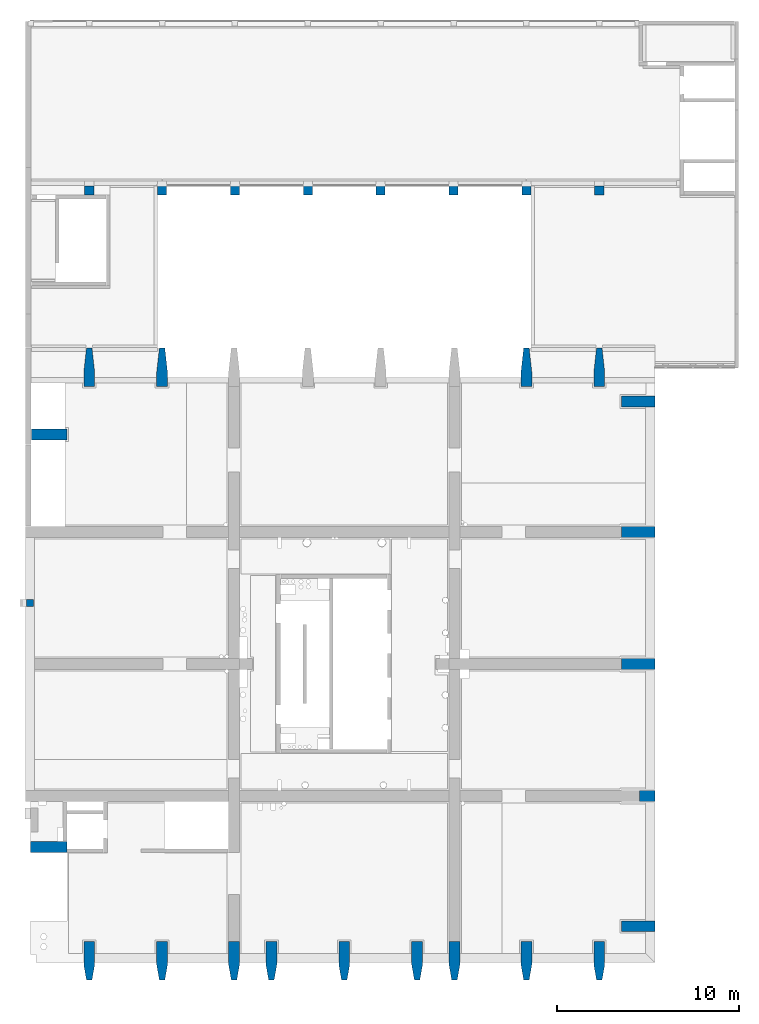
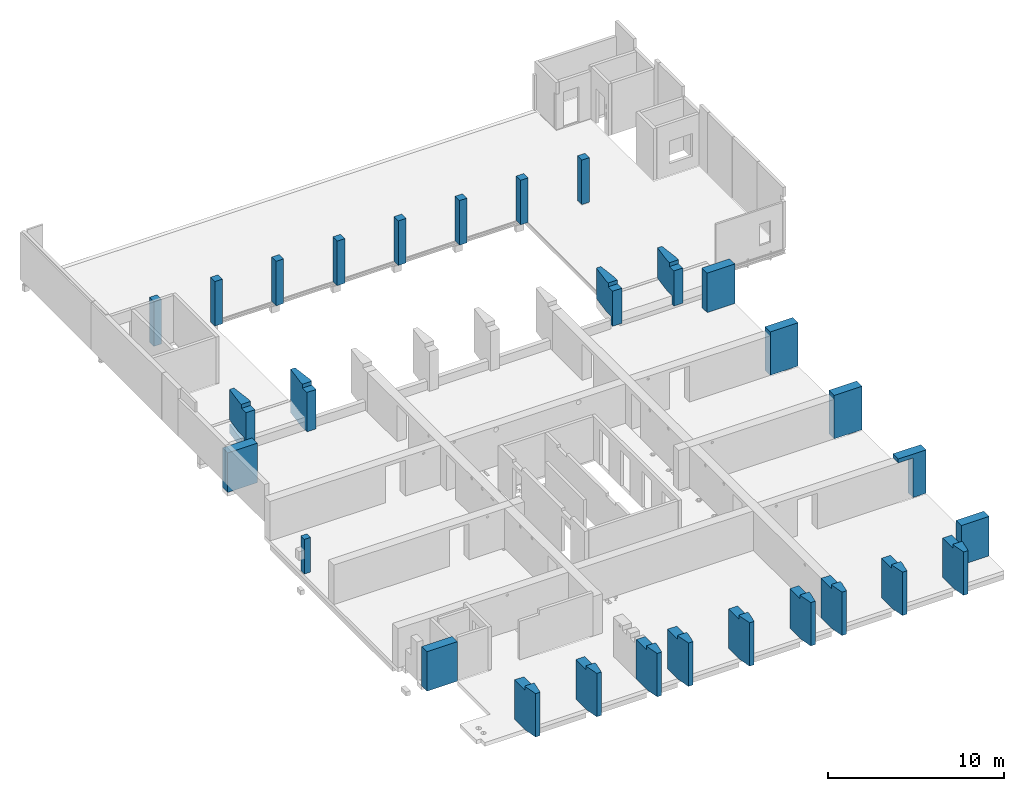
# One storey, part 1 of 10: 29 columns.
"""IFC2X3 building model written with IfcOpenShell, lengths in millimetres."""

import ifcopenshell
import ifcopenshell.guid

model = None  # the IFC model being written
_history = None  # IfcOwnerHistory: only IFC2X3 demands one
_inside = {}  # id of a spatial element -> (the spatial element, [elements in it])
_under = {}  # id of a project, library or spatial element -> (it, [spatial elements below it])
_declared = {}  # id of a project -> (the project, [libraries it declares])
_typed = {}  # id of a type object -> (the type object, [elements of that type])
_made_of = {}  # id of a material, layer set ... -> (it, [elements and type objects made of it])


def new_model(schema):
    """Start an empty IFC model of exactly this schema.

    Asked for "IFC4X3", IfcOpenShell would pick the latest addendum, in which some entities
    have other attributes; the version numbers below select the first issue.
    IFC2X3 requires an IfcOwnerHistory on every rooted entity: one is made here for all.
    """
    global model, _history
    if schema == "IFC4X3":
        model = ifcopenshell.file(schema_version=(4, 3, 0, 0))
    else:
        model = ifcopenshell.file(schema=schema)
    _inside.clear()
    _under.clear()
    _declared.clear()
    _typed.clear()
    _made_of.clear()
    _history = None
    if model.schema == "IFC2X3":
        org = make("IfcOrganization", Name="unknown")
        user = make(
            "IfcPersonAndOrganization",
            ThePerson=make("IfcPerson", FamilyName="unknown"),
            TheOrganization=org,
        )
        app = make(
            "IfcApplication",
            ApplicationDeveloper=org,
            Version="unknown",
            ApplicationFullName="unknown",
            ApplicationIdentifier="unknown",
        )
        _history = make(
            "IfcOwnerHistory",
            OwningUser=user,
            OwningApplication=app,
            ChangeAction="ADDED",
            CreationDate=0,
        )
    return model


def make(cls, **values):
    """One entity of the class cls with the attributes given. An attribute that is None is left unset."""
    return model.create_entity(
        cls, **{name: value for name, value in values.items() if value is not None}
    )


def entity(cls, *values):
    """Any entity or typed value of the class cls, its attributes in the order of the schema. None: left unset."""
    e = model.create_entity(cls)
    for i, value in enumerate(values):
        if value is not None:
            e[i] = value
    return e


def rooted(cls, **values):
    """An entity with a GlobalId (a new one), such as an element, a storey or a relation."""
    return make(cls, GlobalId=ifcopenshell.guid.new(), OwnerHistory=_history, **values)


def si_unit(unit_type, name, prefix=None):
    """IfcSIUnit, for example si_unit("LENGTHUNIT", "METRE", prefix="MILLI")."""
    return make("IfcSIUnit", UnitType=unit_type, Prefix=prefix, Name=name)


def converted_unit(unit_type, name, factor, base, dimensions=None, offset=None):
    """IfcConversionBasedUnit, such as the inch: factor (a typed value) times the base unit."""
    return make(
        "IfcConversionBasedUnit"
        if offset is None
        else "IfcConversionBasedUnitWithOffset",
        ConversionOffset=offset,
        Dimensions=None
        if dimensions is None
        else entity("IfcDimensionalExponents", *dimensions),
        UnitType=unit_type,
        Name=name,
        ConversionFactor=make(
            "IfcMeasureWithUnit", ValueComponent=factor, UnitComponent=base
        ),
    )


def derived_unit(unit_type, elements):
    """IfcDerivedUnit: a product of units, each with its exponent."""
    return make(
        "IfcDerivedUnit",
        Elements=[
            make("IfcDerivedUnitElement", Unit=unit, Exponent=power)
            for unit, power in elements
        ],
        UnitType=unit_type,
    )


def assignment(units):
    """IfcUnitAssignment: the units of a project."""
    return None if units is None else make("IfcUnitAssignment", Units=units)


def point(xyz):
    """IfcCartesianPoint."""
    return None if xyz is None else make("IfcCartesianPoint", Coordinates=xyz)


def direction(xyz):
    """IfcDirection."""
    return None if xyz is None else make("IfcDirection", DirectionRatios=xyz)


def frame(location, z_axis=None, x_axis=None):
    """IfcAxis2Placement3D, a coordinate frame: its origin and axes. An axis left out is left unset."""
    return make(
        "IfcAxis2Placement3D",
        Location=point(location),
        Axis=direction(z_axis),
        RefDirection=direction(x_axis),
    )


def frame_2d(location, x_axis=None):
    """IfcAxis2Placement2D, a coordinate frame in the plane: its origin and x axis."""
    return make(
        "IfcAxis2Placement2D", Location=point(location), RefDirection=direction(x_axis)
    )


def origin():
    """The frame at (0, 0, 0) with its axes left unset."""
    return frame((0.0, 0.0, 0.0))


def origin_2d_with_axis():
    """The frame at (0, 0) in the plane with the x axis (1, 0) written out."""
    return frame_2d((0.0, 0.0), x_axis=(1.0, 0.0))


def place(relative_to, where):
    """IfcLocalPlacement: puts the frame where relative to a parent placement (None: the world)."""
    return make(
        "IfcLocalPlacement", PlacementRelTo=relative_to, RelativePlacement=where
    )


def context(
    kind, dimensions, precision=None, world=None, true_north=None, identifier=None
):
    """IfcGeometricRepresentationContext, for example the 3D "Model" context."""
    return make(
        "IfcGeometricRepresentationContext",
        ContextIdentifier=identifier,
        ContextType=kind,
        CoordinateSpaceDimension=dimensions,
        Precision=precision,
        WorldCoordinateSystem=world,
        TrueNorth=true_north,
    )


def subcontext(parent, identifier, kind, view, scale=None):
    """IfcGeometricRepresentationSubContext, for example "Body" below "Model"."""
    return make(
        "IfcGeometricRepresentationSubContext",
        ContextIdentifier=identifier,
        ContextType=kind,
        ParentContext=parent,
        TargetScale=scale,
        TargetView=view,
    )


def project(units=None, contexts=None):
    """IfcProject with its units and contexts."""
    return rooted(
        "IfcProject",
        Name="project",
        RepresentationContexts=contexts,
        UnitsInContext=assignment(units),
    )


def spatial(cls, under=None, at=None, **own):
    """A site, building, storey or space (cls), placed at a placement, below another one or the project."""
    s = rooted(cls, ObjectPlacement=at, **own)
    if under is not None:
        _under.setdefault(under.id(), (under, []))[1].append(s)
    return s


def polyline(points):
    """IfcPolyline through the points."""
    return make("IfcPolyline", Points=[point(p) for p in points])


def profile(cls, at=None, kind="AREA", **sizes):
    """A parametric profile (cls). Its sizes go by their IFC names, for example OverallWidth=200.0."""
    return make(cls, ProfileType=kind, Position=at, **sizes)


def rectangle(**sizes):
    """IfcRectangleProfileDef."""
    return profile("IfcRectangleProfileDef", **sizes)


def outline(outer, holes=None, kind="AREA"):
    """IfcArbitraryClosedProfileDef: a profile drawn as a closed curve; with holes, ...WithVoids."""
    if holes is None:
        return make("IfcArbitraryClosedProfileDef", ProfileType=kind, OuterCurve=outer)
    return make(
        "IfcArbitraryProfileDefWithVoids",
        ProfileType=kind,
        OuterCurve=outer,
        InnerCurves=holes,
    )


def extrude(swept, where, along, depth):
    """IfcExtrudedAreaSolid: the profile swept, set in the frame where, extruded along a direction by depth."""
    return make(
        "IfcExtrudedAreaSolid",
        SweptArea=swept,
        Position=where,
        ExtrudedDirection=direction(along),
        Depth=depth,
    )


def faces_of(points, faces, orient=None, outer=None):
    """IfcFace entities. A face is a list of loops; a loop is a list of indices into points, from 0.

    orient and outer hold one flag for each loop. By default every Orientation is true, the
    first loop of a face is its IfcFaceOuterBound and the others are IfcFaceBound.
    """
    made = []
    for i, loops in enumerate(faces):
        bounds = []
        for j, loop in enumerate(loops):
            is_outer = j == 0 if outer is None else outer[i][j]
            bounds.append(
                make(
                    "IfcFaceOuterBound" if is_outer else "IfcFaceBound",
                    Bound=make("IfcPolyLoop", Polygon=[points[k] for k in loop]),
                    Orientation=True if orient is None else orient[i][j],
                )
            )
        made.append(make("IfcFace", Bounds=bounds))
    return made


def faceted_brep(points, faces, orient=None, outer=None, voids=None):
    """IfcFacetedBrep: a solid bounded by flat faces; with voids (closed shells), ...WithVoids."""
    shared = [point(p) for p in points]
    hull = make("IfcClosedShell", CfsFaces=faces_of(shared, faces, orient, outer))
    if voids is None:
        return make("IfcFacetedBrep", Outer=hull)
    return make(
        "IfcFacetedBrepWithVoids",
        Outer=hull,
        Voids=[
            make(cls, CfsFaces=faces_of(shared, fs, o, b)) for cls, fs, o, b in voids
        ],
    )


def shape(context_of_items, identifier, shape_type, items):
    """IfcShapeRepresentation: the items that make up one representation, for example the "Body"."""
    return make(
        "IfcShapeRepresentation",
        ContextOfItems=context_of_items,
        RepresentationIdentifier=identifier,
        RepresentationType=shape_type,
        Items=items,
    )


def source(mapping_origin, context_of_items, identifier, shape_type, items):
    """IfcRepresentationMap: a shape defined once, which mapped items show again and again."""
    return make(
        "IfcRepresentationMap",
        MappingOrigin=mapping_origin,
        MappedRepresentation=shape(context_of_items, identifier, shape_type, items),
    )


def transform(
    local_origin,
    x_axis=None,
    y_axis=None,
    z_axis=None,
    scale=None,
    scale2=None,
    scale3=None,
    uniform=True,
):
    """IfcCartesianTransformationOperator3D, or its non-uniform kind. x_axis, y_axis, z_axis: its Axis1, 2, 3."""
    if uniform:
        return make(
            "IfcCartesianTransformationOperator3D",
            Axis1=direction(x_axis),
            Axis2=direction(y_axis),
            LocalOrigin=point(local_origin),
            Scale=scale,
            Axis3=direction(z_axis),
        )
    return make(
        "IfcCartesianTransformationOperator3DnonUniform",
        Axis1=direction(x_axis),
        Axis2=direction(y_axis),
        LocalOrigin=point(local_origin),
        Scale=scale,
        Axis3=direction(z_axis),
        Scale2=scale2,
        Scale3=scale3,
    )


def mapped(mapping_source, mapping_target):
    """IfcMappedItem: shows the shape of a source again, moved by a transform."""
    return make(
        "IfcMappedItem", MappingSource=mapping_source, MappingTarget=mapping_target
    )


def material(Name=None, Category=None):
    """IfcMaterial."""
    return make("IfcMaterial", Name=Name, Category=Category)


def made_of(thing, what):
    """Note that an element or type object is made of a material, layer set ...; save() writes the relation."""
    if what is not None:
        _made_of.setdefault(what.id(), (what, []))[1].append(thing)
    return thing


def type_object(cls, material=None, **own):
    """A type object (cls), such as IfcWallType, which elements share."""
    return made_of(rooted(cls, **own), material)


def type_shapes(of_type, sources):
    """Give a type object the sources (RepresentationMaps) that its elements show as mapped items."""
    of_type.RepresentationMaps = sources


def element(
    cls,
    number,
    at=None,
    inside=None,
    cuts=None,
    type_object=None,
    material=None,
    context=None,
    identifier="Body",
    shape_type=None,
    held_by="IfcProductDefinitionShape",
    body=None,
    shapes=None,
    **own,
):
    """One element of the class cls, such as IfcWall. Its Tag is "e" and its number.

    at: its placement. inside: the storey or other place that contains it. cuts: it is an
    opening in that element (IfcRelVoidsElement). A single representation is given by context,
    identifier, shape_type and body (its items); several are given by shapes. held_by: the class
    of the entity that holds the representations. save() writes the other relations.
    """
    e = rooted(cls, Tag="e%d" % number, ObjectPlacement=at, **own)
    if body is not None:
        shapes = [shape(context, identifier, shape_type, body)]
    if shapes is not None:
        e.Representation = make(held_by, Representations=shapes)
    if inside is not None:
        _inside.setdefault(inside.id(), (inside, []))[1].append(e)
    if cuts is not None:
        rooted(
            "IfcRelVoidsElement", RelatingBuildingElement=cuts, RelatedOpeningElement=e
        )
    if type_object is not None:
        _typed.setdefault(type_object.id(), (type_object, []))[1].append(e)
    return made_of(e, material)


def aggregate(whole, parts):
    """IfcRelAggregates: a whole, such as a stair, and the parts it consists of."""
    return rooted("IfcRelAggregates", RelatingObject=whole, RelatedObjects=parts)


def save(model, path):
    """Write the relations noted so far, then the file.

    IfcRelAggregates (storeys below a building ...), IfcRelContainedInSpatialStructure (elements
    in a storey), IfcRelDefinesByType, IfcRelAssociatesMaterial and IfcRelDeclares: one each for
    every whole, place, type object, material and project.
    """
    for whole, parts in _under.values():
        aggregate(whole, parts)
    for where, things in _inside.values():
        rooted(
            "IfcRelContainedInSpatialStructure",
            RelatedElements=things,
            RelatingStructure=where,
        )
    for kind, things in _typed.values():
        rooted("IfcRelDefinesByType", RelatedObjects=things, RelatingType=kind)
    for what, things in _made_of.values():
        rooted("IfcRelAssociatesMaterial", RelatedObjects=things, RelatingMaterial=what)
    for by, libraries in _declared.values():
        rooted("IfcRelDeclares", RelatingContext=by, RelatedDefinitions=libraries)
    model.write(path)


model = new_model("IFC2X3")

# Units and contexts
model_context = context("Model", 3, precision=0.01, world=origin(), true_north=direction((6.12303176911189e-17, 1.0)))
body_context = subcontext(model_context, "Body", "Model", "MODEL_VIEW")
ifc_project = project(units=[si_unit("LENGTHUNIT", "METRE", prefix="MILLI"), si_unit("AREAUNIT", "SQUARE_METRE"), si_unit("VOLUMEUNIT", "CUBIC_METRE"), converted_unit("PLANEANGLEUNIT", "DEGREE", entity("IfcRatioMeasure", 0.0174532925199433), si_unit("PLANEANGLEUNIT", "RADIAN"), dimensions=[0, 0, 0, 0, 0, 0, 0]), si_unit("MASSUNIT", "GRAM", prefix="KILO"), derived_unit("MASSDENSITYUNIT", [(si_unit("MASSUNIT", "GRAM", prefix="KILO"), 1), (si_unit("LENGTHUNIT", "METRE"), -3)]), si_unit("TIMEUNIT", "SECOND"), si_unit("FREQUENCYUNIT", "HERTZ"), si_unit("THERMODYNAMICTEMPERATUREUNIT", "DEGREE_CELSIUS"), derived_unit("THERMALTRANSMITTANCEUNIT", [(si_unit("MASSUNIT", "GRAM", prefix="KILO"), 1), (si_unit("THERMODYNAMICTEMPERATUREUNIT", "KELVIN"), -1), (si_unit("TIMEUNIT", "SECOND"), -3)]), derived_unit("VOLUMETRICFLOWRATEUNIT", [(si_unit("LENGTHUNIT", "METRE"), 3), (si_unit("TIMEUNIT", "SECOND"), -1)]), si_unit("ELECTRICCURRENTUNIT", "AMPERE"), si_unit("ELECTRICVOLTAGEUNIT", "VOLT"), si_unit("POWERUNIT", "WATT"), si_unit("FORCEUNIT", "NEWTON", prefix="KILO"), si_unit("ILLUMINANCEUNIT", "LUX"), si_unit("LUMINOUSFLUXUNIT", "LUMEN"), si_unit("LUMINOUSINTENSITYUNIT", "CANDELA"), derived_unit("USERDEFINED", [(si_unit("MASSUNIT", "GRAM", prefix="KILO"), -1), (si_unit("LENGTHUNIT", "METRE"), -2), (si_unit("TIMEUNIT", "SECOND"), 3), (si_unit("LUMINOUSFLUXUNIT", "LUMEN"), 1)]), derived_unit("LINEARVELOCITYUNIT", [(si_unit("LENGTHUNIT", "METRE"), 1), (si_unit("TIMEUNIT", "SECOND"), -1)]), si_unit("PRESSUREUNIT", "PASCAL"), derived_unit("USERDEFINED", [(si_unit("LENGTHUNIT", "METRE"), -2), (si_unit("MASSUNIT", "GRAM", prefix="KILO"), 1), (si_unit("TIMEUNIT", "SECOND"), -2)])], contexts=[model_context])

# Site, building, storey
site_placement = place(None, origin())
site = spatial("IfcSite", under=ifc_project, at=site_placement, Name="Default", CompositionType="ELEMENT")
building_placement = place(site_placement, origin())
building = spatial("IfcBuilding", under=site, at=building_placement, Name="niet gebruiken", CompositionType="ELEMENT")
storey_placement = place(building_placement, frame((0.0, 0.0, 9000.0)))
storey = spatial("IfcBuildingStorey", under=building, at=storey_placement, Name="02 tweede verdieping", CompositionType="ELEMENT", Elevation=9000.00000000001)

# Columns
ifc_material_1 = material(Name="NLRS_f2_beton ihwg")
column_type_1 = type_object("IfcColumnType", Name="600x1820", PredefinedType="COLUMN", material=ifc_material_1)
shared_shape_1 = source(origin(), body_context, "Body", "SweptSolid", [
    extrude(rectangle(XDim=600.0, YDim=1820.0, at=origin_2d_with_axis()), frame((157890.0, 3100.0, 8910.0), z_axis=(0.0, 0.0, 1.0), x_axis=(0.0, -1.0, 0.0)), (0.0, 0.0, 1.0), 2730.0),
])
type_shapes(column_type_1, [shared_shape_1])
column_1_placement = place(storey_placement, frame((0.0, 0.0, -9000.0)))
element("IfcColumn", 1, at=column_1_placement, inside=storey, type_object=column_type_1, material=ifc_material_1, Name="NLRS_28.11_SCO_TLB_beton kolom ihwg_gen:600x1820", ObjectType="600x1820", context=body_context, shape_type="MappedRepresentation", body=[
    mapped(shared_shape_1, transform((0.0, 0.0, 0.0), scale=1.0)),
])
column_type_2 = type_object("IfcColumnType", Name="600x1820", PredefinedType="COLUMN", material=ifc_material_1)
shared_shape_2 = source(origin(), body_context, "Body", "Brep", [
    faceted_brep([(0.0, 0.0, 3000.0), (0.0, 600.0, 3000.0), (0.0, 600.0, 2730.0), (0.0, 0.0, 2730.0), (1820.0, 600.0, 3000.0), (1820.0, 0.0, 3000.0), (1820.0, 0.0, 2730.0), (1820.0, 0.0, 2400.0), (1820.0, 0.0, 0.0), (1820.0, 600.0, 0.0), (1820.0, 600.0, 2400.0), (1820.0, 600.0, 2730.0), (971.286961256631, 0.0, 0.0), (971.286961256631, 600.0, 0.0), (971.286961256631, 600.0, 2730.0), (971.286961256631, 0.0, 2730.0)], [[[0, 1, 2, 3]], [[4, 5, 6, 7, 8, 9, 10, 11]], [[0, 5, 4, 1]], [[9, 8, 12, 13]], [[1, 4, 11, 10, 9, 13, 14, 2]], [[5, 0, 3, 15, 12, 8, 7, 6]], [[15, 14, 13, 12]], [[14, 15, 3, 2]]]),
])
type_shapes(column_type_2, [shared_shape_2])
column_2_placement = place(storey_placement, frame((156980.0, 9950.0, -90.0)))
element("IfcColumn", 2, at=column_2_placement, inside=storey, type_object=column_type_2, material=ifc_material_1, Name="NLRS_28.11_SCO_TLB_beton kolom ihwg_gen:600x1820", ObjectType="600x1820", context=body_context, shape_type="MappedRepresentation", body=[
    mapped(shared_shape_2, transform((0.0, 0.0, 0.0), scale=1.0)),
])
column_type_3 = type_object("IfcColumnType", Name="600x1820", PredefinedType="COLUMN", material=ifc_material_1)
shared_shape_3 = source(origin(), body_context, "Body", "SweptSolid", [
    extrude(rectangle(XDim=600.0, YDim=1820.0, at=frame_2d((1.10844666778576e-12, 0.0), x_axis=(1.0, 0.0))), frame((157890.0, 17500.0, 8910.0), z_axis=(0.0, 0.0, 1.0), x_axis=(0.0, -1.0, 0.0)), (0.0, 0.0, 1.0), 3000.0),
])
type_shapes(column_type_3, [shared_shape_3])
column_3_placement = place(storey_placement, frame((0.0, 0.0, -9000.0)))
element("IfcColumn", 3, at=column_3_placement, inside=storey, type_object=column_type_3, material=ifc_material_1, Name="NLRS_28.11_SCO_TLB_beton kolom ihwg_gen:600x1820", ObjectType="600x1820", context=body_context, shape_type="MappedRepresentation", body=[
    mapped(shared_shape_3, transform((0.0, 0.0, 0.0), scale=1.0)),
])
column_type_4 = type_object("IfcColumnType", Name="600x1820", PredefinedType="COLUMN", material=ifc_material_1)
shared_shape_4 = source(origin(), body_context, "Body", "SweptSolid", [
    extrude(rectangle(XDim=599.999999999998, YDim=1820.0, at=origin_2d_with_axis()), frame((157890.0, 24750.0, 8910.0), z_axis=(0.0, 0.0, 1.0), x_axis=(0.0, -1.0, 0.0)), (0.0, 0.0, 1.0), 3000.0),
])
type_shapes(column_type_4, [shared_shape_4])
column_4_placement = place(storey_placement, frame((0.0, 0.0, -9000.0)))
element("IfcColumn", 4, at=column_4_placement, inside=storey, type_object=column_type_4, material=ifc_material_1, Name="NLRS_28.11_SCO_TLB_beton kolom ihwg_gen:600x1820", ObjectType="600x1820", context=body_context, shape_type="MappedRepresentation", body=[
    mapped(shared_shape_4, transform((0.0, 0.0, 0.0), scale=1.0)),
])
column_type_5 = type_object("IfcColumnType", Name="600x1820", PredefinedType="COLUMN", material=ifc_material_1)
shared_shape_5 = source(origin(), body_context, "Body", "SweptSolid", [
    extrude(rectangle(XDim=599.999999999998, YDim=1820.0, at=frame_2d((-4.34852154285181e-12, 0.0), x_axis=(1.0, 0.0))), frame((157890.0, 31900.0, 8910.0), z_axis=(0.0, 0.0, 1.0), x_axis=(0.0, -1.0, 0.0)), (0.0, 0.0, 1.0), 2730.0),
])
type_shapes(column_type_5, [shared_shape_5])
column_5_placement = place(storey_placement, frame((0.0, 0.0, -9000.0)))
element("IfcColumn", 5, at=column_5_placement, inside=storey, type_object=column_type_5, material=ifc_material_1, Name="NLRS_28.11_SCO_TLB_beton kolom ihwg_gen:600x1820", ObjectType="600x1820", context=body_context, shape_type="MappedRepresentation", body=[
    mapped(shared_shape_5, transform((0.0, 0.0, 0.0), scale=1.0)),
])
column_type_6 = type_object("IfcColumnType", Name="600/300x2120/770", PredefinedType="COLUMN", material=ifc_material_1)
shared_shape_6 = source(origin(), body_context, "Body", "Brep", [
    faceted_brep([(600.0, 770.0, 2700.0), (450.0, 2120.0, 2700.0), (150.0, 2120.0, 2700.0), (0.0, 770.0, 2700.0), (0.0, 500.0, 2700.0), (600.0, 500.0, 2700.0), (600.0, 0.0, 0.0), (0.0, 0.0, 0.0), (0.0, 200.0, 0.0), (600.0, 200.0, 0.0), (600.0, 200.0, 600.0), (600.0, 770.0, 600.0), (600.0, 500.0, 2430.0), (600.0, 0.0, 2430.0), (450.0, 2120.0, 600.0), (150.0, 2120.0, 600.0), (0.0, 0.0, 2430.0), (0.0, 500.0, 2430.0), (0.0, 770.0, 600.0), (0.0, 200.0, 600.0)], [[[0, 1, 2, 3, 4, 5]], [[6, 7, 8, 9]], [[6, 9, 10, 11, 0, 5, 12, 13]], [[2, 1, 14, 15]], [[8, 7, 16, 17, 4, 3, 18, 19]], [[7, 6, 13, 16]], [[1, 0, 11, 14]], [[3, 2, 15, 18]], [[10, 19, 18, 15, 14, 11]], [[19, 10, 9, 8]], [[12, 17, 16, 13]], [[17, 12, 5, 4]]]),
])
type_shapes(column_type_6, [shared_shape_6])
column_6_placement = place(storey_placement, frame((155450.0, 32730.0, 210.0)))
element("IfcColumn", 6, at=column_6_placement, inside=storey, type_object=column_type_6, material=ifc_material_1, Name="NLRS_28.11_SCO_TLB_beton kolom ihwg V vorm_gen:600/300x2120/770", ObjectType="600/300x2120/770", context=body_context, shape_type="MappedRepresentation", body=[
    mapped(shared_shape_6, transform((0.0, 0.0, 0.0), scale=1.0)),
])
column_type_7 = type_object("IfcColumnType", Name="600/300x2120/770", PredefinedType="COLUMN", material=ifc_material_1)
shared_shape_7 = source(origin(), body_context, "Body", "Brep", [
    faceted_brep([(600.0, 770.0, 2700.0), (450.0, 2120.0, 2700.0), (150.0, 2120.0, 2700.0), (0.0, 770.0, 2700.0), (0.0, 500.0, 2700.0), (600.0, 500.0, 2700.0), (600.0, 0.0, 0.0), (0.0, 0.0, 0.0), (0.0, 200.0, 0.0), (600.0, 200.0, 0.0), (600.0, 200.0, 600.0), (600.0, 770.0, 600.0), (600.0, 500.0, 2430.0), (600.0, 0.0, 2430.0), (450.0, 2120.0, 600.0), (150.0, 2120.0, 600.0), (0.0, 0.0, 2430.0), (0.0, 500.0, 2430.0), (0.0, 770.0, 600.0), (0.0, 200.0, 600.0)], [[[0, 1, 2, 3, 4, 5]], [[6, 7, 8, 9]], [[6, 9, 10, 11, 0, 5, 12, 13]], [[2, 1, 14, 15]], [[8, 7, 16, 17, 4, 3, 18, 19]], [[7, 6, 13, 16]], [[1, 0, 11, 14]], [[3, 2, 15, 18]], [[10, 19, 18, 15, 14, 11]], [[19, 10, 9, 8]], [[12, 17, 16, 13]], [[17, 12, 5, 4]]]),
])
type_shapes(column_type_7, [shared_shape_7])
column_7_placement = place(storey_placement, frame((151450.0, 32730.0, 210.0)))
element("IfcColumn", 7, at=column_7_placement, inside=storey, type_object=column_type_7, material=ifc_material_1, Name="NLRS_28.11_SCO_TLB_beton kolom ihwg V vorm_gen:600/300x2120/770", ObjectType="600/300x2120/770", context=body_context, shape_type="MappedRepresentation", body=[
    mapped(shared_shape_7, transform((0.0, 0.0, 0.0), scale=1.0)),
])
column_type_8 = type_object("IfcColumnType", Name="600/300x2120/770", PredefinedType="COLUMN", material=ifc_material_1)
shared_shape_8 = source(origin(), body_context, "Body", "Brep", [
    faceted_brep([(600.0, 770.0, 3000.0), (450.0, 2120.0, 3000.0), (150.0, 2120.0, 3000.0), (0.0, 770.0, 3000.0), (0.0, 500.0, 3000.0), (600.0, 500.0, 3000.0), (600.0, 0.0, 0.0), (0.0, 0.0, 0.0), (0.0, 200.0, 0.0), (0.0, 500.0, 0.0), (0.0, 770.0, 0.0), (150.0, 2120.0, 0.0), (450.0, 2120.0, 0.0), (600.0, 770.0, 0.0), (600.0, 500.0, 2730.0), (600.0, 0.0, 2730.0), (150.0, 2120.0, 600.0), (150.0, 2120.0, 900.0), (0.0, 0.0, 2730.0), (0.0, 500.0, 2730.0), (0.0, 770.0, 900.0), (0.0, 770.0, 600.0)], [[[0, 1, 2, 3, 4, 5]], [[6, 7, 8, 9, 10, 11, 12, 13]], [[6, 13, 0, 5, 14, 15]], [[2, 1, 12, 11, 16, 17]], [[10, 9, 8, 7, 18, 19, 4, 3, 20, 21]], [[7, 6, 15, 18]], [[1, 0, 13, 12]], [[3, 2, 17, 16, 11, 10, 21, 20]], [[14, 19, 18, 15]], [[19, 14, 5, 4]]]),
])
type_shapes(column_type_8, [shared_shape_8])
column_8_placement = place(storey_placement, frame((131450.0, 32730.0, -90.0)))
element("IfcColumn", 8, at=column_8_placement, inside=storey, type_object=column_type_8, material=ifc_material_1, Name="NLRS_28.11_SCO_TLB_beton kolom ihwg V vorm_gen:600/300x2120/770", ObjectType="600/300x2120/770", context=body_context, shape_type="MappedRepresentation", body=[
    mapped(shared_shape_8, transform((0.0, 0.0, 0.0), scale=1.0)),
])
column_type_9 = type_object("IfcColumnType", Name="600/300x2120/770", PredefinedType="COLUMN", material=ifc_material_1)
shared_shape_9 = source(origin(), body_context, "Body", "SolidModel", [
    extrude(outline(polyline([(360.0, -300.0), (630.0, -300.0), (630.0, 300.0), (360.0, 300.0), (-990.0, 150.0), (-990.0, -150.0), (360.0, -300.0)])), frame((127750.0, 33860.0, 8910.0), z_axis=(0.0, 0.0, 1.0), x_axis=(0.0, -1.0, 0.0)), (0.0, 0.0, 1.0), 600.000000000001),
    faceted_brep([(128050.0, 33500.0, 11910.0), (127900.0, 34850.0, 11910.0), (127600.0, 34850.0, 11910.0), (127450.0, 33500.0, 11910.0), (127450.0, 33230.0, 11910.0), (128050.0, 33230.0, 11910.0), (128050.0, 32730.0, 8910.0), (128050.0, 32930.0, 8910.0), (128050.0, 32930.0, 9810.0), (128050.0, 33500.0, 9810.0), (128050.0, 33230.0, 11640.0), (128050.0, 32730.0, 11640.0), (127900.0, 34850.0, 9810.0), (127600.0, 34850.0, 9810.0), (127450.0, 32930.0, 8910.0), (127450.0, 32730.0, 8910.0), (127450.0, 32730.0, 11640.0), (127450.0, 33230.0, 11640.0), (127450.0, 33500.0, 9810.0), (127450.0, 32930.0, 9810.0)], [[[0, 1, 2, 3, 4, 5]], [[6, 7, 8, 9, 0, 5, 10, 11]], [[2, 1, 12, 13]], [[14, 15, 16, 17, 4, 3, 18, 19]], [[15, 6, 11, 16]], [[1, 0, 9, 12]], [[3, 2, 13, 18]], [[7, 14, 19, 8]], [[6, 15, 14, 7]], [[8, 19, 18, 13, 12, 9]], [[10, 17, 16, 11]], [[17, 10, 5, 4]]]),
])
type_shapes(column_type_9, [shared_shape_9])
column_9_placement = place(storey_placement, frame((0.0, 0.0, -9000.0)))
element("IfcColumn", 9, at=column_9_placement, inside=storey, type_object=column_type_9, material=ifc_material_1, Name="NLRS_28.11_SCO_TLB_beton kolom ihwg V vorm_gen:600/300x2120/770", ObjectType="600/300x2120/770", context=body_context, shape_type="MappedRepresentation", body=[
    mapped(shared_shape_9, transform((0.0, 0.0, 0.0), scale=1.0)),
])
column_type_10 = type_object("IfcColumnType", Name="600x1990", PredefinedType="COLUMN", material=ifc_material_1)
shared_shape_10 = source(origin(), body_context, "Body", "SweptSolid", [
    extrude(rectangle(XDim=600.0, YDim=1990.0, at=origin_2d_with_axis()), frame((125525.0, 7450.0, 8910.0), z_axis=(0.0, 0.0, 1.0), x_axis=(0.0, -1.0, 0.0)), (0.0, 0.0, 1.0), 2730.0),
])
type_shapes(column_type_10, [shared_shape_10])
column_10_placement = place(storey_placement, frame((0.0, 0.0, -9000.0)))
element("IfcColumn", 10, at=column_10_placement, inside=storey, type_object=column_type_10, material=ifc_material_1, Name="NLRS_28.11_SCO_TLB_beton kolom ihwg_gen:600x1990", ObjectType="600x1990", context=body_context, shape_type="MappedRepresentation", body=[
    mapped(shared_shape_10, transform((0.0, 0.0, 0.0), scale=1.0)),
])
column_type_11 = type_object("IfcColumnType", Name="600x1950", PredefinedType="COLUMN", material=ifc_material_1)
shared_shape_11 = source(origin(), body_context, "Body", "SweptSolid", [
    extrude(rectangle(XDim=599.999999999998, YDim=1950.00000000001, at=origin_2d_with_axis()), frame((125545.0, 30100.0, 8910.0), z_axis=(0.0, 0.0, 1.0), x_axis=(0.0, -1.0, 0.0)), (0.0, 0.0, 1.0), 2730.0),
])
type_shapes(column_type_11, [shared_shape_11])
column_11_placement = place(storey_placement, frame((0.0, 0.0, -9000.0)))
element("IfcColumn", 11, at=column_11_placement, inside=storey, type_object=column_type_11, material=ifc_material_1, Name="NLRS_28.11_SCO_TLB_beton kolom ihwg_gen:600x1950", ObjectType="600x1950", context=body_context, shape_type="MappedRepresentation", body=[
    mapped(shared_shape_11, transform((0.0, 0.0, 0.0), scale=1.0)),
])
column_type_12 = type_object("IfcColumnType", Name="600/300x2120/1270", PredefinedType="COLUMN", material=ifc_material_1)
shared_shape_12 = source(origin(), body_context, "Body", "Brep", [
    faceted_brep([(0.0, 850.0, 3000.0), (150.0, 0.0, 3000.0), (450.0, 0.0, 3000.0), (600.0, 850.0, 3000.0), (600.0, 964.0, 3000.0), (0.0, 964.0, 3000.0), (0.0, 2120.0, 0.0), (600.0, 2120.0, 0.0), (600.0, 850.0, 0.0), (450.0, 0.0, 0.0), (150.0, 0.0, 0.0), (0.0, 850.0, 0.0), (0.0, 964.0, 2730.0), (0.0, 2120.0, 2730.0), (600.0, 2120.0, 2730.0), (600.0, 964.0, 2730.0)], [[[0, 1, 2, 3, 4, 5]], [[6, 7, 8, 9, 10, 11]], [[6, 11, 0, 5, 12, 13]], [[2, 1, 10, 9]], [[8, 7, 14, 15, 4, 3]], [[7, 6, 13, 14]], [[1, 0, 11, 10]], [[3, 2, 9, 8]], [[12, 15, 14, 13]], [[15, 12, 5, 4]]]),
])
type_shapes(column_type_12, [shared_shape_12])
column_12_placement = place(storey_placement, frame((127450.0, 150.0, -90.0)))
element("IfcColumn", 12, at=column_12_placement, inside=storey, type_object=column_type_12, material=ifc_material_1, Name="NLRS_28.11_SCO_TLB_beton kolom ihwg V vorm_gen:600/300x2120/1270", ObjectType="600/300x2120/1270", context=body_context, shape_type="MappedRepresentation", body=[
    mapped(shared_shape_12, transform((0.0, 0.0, 0.0), scale=1.0)),
])
column_type_13 = type_object("IfcColumnType", Name="600/300x2120/1270", PredefinedType="COLUMN", material=ifc_material_1)
shared_shape_13 = source(origin(), body_context, "Body", "Brep", [
    faceted_brep([(0.0, 850.0, 3000.0), (150.0, 0.0, 3000.0), (450.0, 0.0, 3000.0), (600.0, 850.0, 3000.0), (600.0, 964.0, 3000.0), (0.0, 964.0, 3000.0), (0.0, 2120.0, 0.0), (600.0, 2120.0, 0.0), (600.0, 850.0, 0.0), (450.0, 0.0, 0.0), (150.0, 0.0, 0.0), (0.0, 850.0, 0.0), (0.0, 964.0, 2730.0), (0.0, 2120.0, 2730.0), (600.0, 2120.0, 2730.0), (600.0, 964.0, 2730.0)], [[[0, 1, 2, 3, 4, 5]], [[6, 7, 8, 9, 10, 11]], [[6, 11, 0, 5, 12, 13]], [[2, 1, 10, 9]], [[8, 7, 14, 15, 4, 3]], [[7, 6, 13, 14]], [[1, 0, 11, 10]], [[3, 2, 9, 8]], [[12, 15, 14, 13]], [[15, 12, 5, 4]]]),
])
type_shapes(column_type_13, [shared_shape_13])
column_13_placement = place(storey_placement, frame((131450.0, 150.0, -90.0)))
element("IfcColumn", 13, at=column_13_placement, inside=storey, type_object=column_type_13, material=ifc_material_1, Name="NLRS_28.11_SCO_TLB_beton kolom ihwg V vorm_gen:600/300x2120/1270", ObjectType="600/300x2120/1270", context=body_context, shape_type="MappedRepresentation", body=[
    mapped(shared_shape_13, transform((0.0, 0.0, 0.0), scale=1.0)),
])
column_type_14 = type_object("IfcColumnType", Name="600/300x2120/1270", PredefinedType="COLUMN", material=ifc_material_1)
shared_shape_14 = source(origin(), body_context, "Body", "Brep", [
    faceted_brep([(0.0, 850.0, 3000.0), (150.0, 0.0, 3000.0), (450.0, 0.0, 3000.0), (600.0, 850.0, 3000.0), (600.0, 964.0, 3000.0), (0.0, 964.0, 3000.0), (0.0, 2120.0, 0.0), (600.0, 2120.0, 0.0), (600.0, 850.0, 0.0), (450.0, 0.0, 0.0), (150.0, 0.0, 0.0), (0.0, 850.0, 0.0), (0.0, 964.0, 2730.0), (0.0, 2120.0, 2730.0), (600.0, 2120.0, 2730.0), (600.0, 964.0, 2730.0)], [[[0, 1, 2, 3, 4, 5]], [[6, 7, 8, 9, 10, 11]], [[6, 11, 0, 5, 12, 13]], [[2, 1, 10, 9]], [[8, 7, 14, 15, 4, 3]], [[7, 6, 13, 14]], [[1, 0, 11, 10]], [[3, 2, 9, 8]], [[12, 15, 14, 13]], [[15, 12, 5, 4]]]),
])
type_shapes(column_type_14, [shared_shape_14])
column_14_placement = place(storey_placement, frame((135400.0, 150.0, -90.0)))
element("IfcColumn", 14, at=column_14_placement, inside=storey, type_object=column_type_14, material=ifc_material_1, Name="NLRS_28.11_SCO_TLB_beton kolom ihwg V vorm_gen:600/300x2120/1270", ObjectType="600/300x2120/1270", context=body_context, shape_type="MappedRepresentation", body=[
    mapped(shared_shape_14, transform((0.0, 0.0, 0.0), scale=1.0)),
])
column_type_15 = type_object("IfcColumnType", Name="600/300x2120/1270", PredefinedType="COLUMN", material=ifc_material_1)
shared_shape_15 = source(origin(), body_context, "Body", "Brep", [
    faceted_brep([(0.0, 850.0, 3000.0), (150.0, 0.0, 3000.0), (450.0, 0.0, 3000.0), (600.0, 850.0, 3000.0), (600.0, 964.0, 3000.0), (0.0, 964.0, 3000.0), (0.0, 2120.0, 0.0), (600.0, 2120.0, 0.0), (600.0, 850.0, 0.0), (450.0, 0.0, 0.0), (150.0, 0.0, 0.0), (0.0, 850.0, 0.0), (0.0, 964.0, 2730.0), (0.0, 2120.0, 2730.0), (600.0, 2120.0, 2730.0), (600.0, 964.0, 2730.0)], [[[0, 1, 2, 3, 4, 5]], [[6, 7, 8, 9, 10, 11]], [[6, 11, 0, 5, 12, 13]], [[2, 1, 10, 9]], [[8, 7, 14, 15, 4, 3]], [[7, 6, 13, 14]], [[1, 0, 11, 10]], [[3, 2, 9, 8]], [[12, 15, 14, 13]], [[15, 12, 5, 4]]]),
])
type_shapes(column_type_15, [shared_shape_15])
column_15_placement = place(storey_placement, frame((137450.0, 150.0, -90.0)))
element("IfcColumn", 15, at=column_15_placement, inside=storey, type_object=column_type_15, material=ifc_material_1, Name="NLRS_28.11_SCO_TLB_beton kolom ihwg V vorm_gen:600/300x2120/1270", ObjectType="600/300x2120/1270", context=body_context, shape_type="MappedRepresentation", body=[
    mapped(shared_shape_15, transform((0.0, 0.0, 0.0), scale=1.0)),
])
column_type_16 = type_object("IfcColumnType", Name="600/300x2120/1270", PredefinedType="COLUMN", material=ifc_material_1)
shared_shape_16 = source(origin(), body_context, "Body", "Brep", [
    faceted_brep([(0.0, 850.0, 3000.0), (150.0, 0.0, 3000.0), (450.0, 0.0, 3000.0), (600.0, 850.0, 3000.0), (600.0, 964.0, 3000.0), (0.0, 964.0, 3000.0), (0.0, 2120.0, 0.0), (600.0, 2120.0, 0.0), (600.0, 850.0, 0.0), (450.0, 0.0, 0.0), (150.0, 0.0, 0.0), (0.0, 850.0, 0.0), (0.0, 964.0, 2730.0), (0.0, 2120.0, 2730.0), (600.0, 2120.0, 2730.0), (600.0, 964.0, 2730.0)], [[[0, 1, 2, 3, 4, 5]], [[6, 7, 8, 9, 10, 11]], [[6, 11, 0, 5, 12, 13]], [[2, 1, 10, 9]], [[8, 7, 14, 15, 4, 3]], [[7, 6, 13, 14]], [[1, 0, 11, 10]], [[3, 2, 9, 8]], [[12, 15, 14, 13]], [[15, 12, 5, 4]]]),
])
type_shapes(column_type_16, [shared_shape_16])
column_16_placement = place(storey_placement, frame((141450.0, 150.0, -90.0)))
element("IfcColumn", 16, at=column_16_placement, inside=storey, type_object=column_type_16, material=ifc_material_1, Name="NLRS_28.11_SCO_TLB_beton kolom ihwg V vorm_gen:600/300x2120/1270", ObjectType="600/300x2120/1270", context=body_context, shape_type="MappedRepresentation", body=[
    mapped(shared_shape_16, transform((0.0, 0.0, 0.0), scale=1.0)),
])
column_type_17 = type_object("IfcColumnType", Name="600/300x2120/1270", PredefinedType="COLUMN", material=ifc_material_1)
shared_shape_17 = source(origin(), body_context, "Body", "Brep", [
    faceted_brep([(0.0, 850.0, 3000.0), (150.0, 0.0, 3000.0), (450.0, 0.0, 3000.0), (600.0, 850.0, 3000.0), (600.0, 964.0, 3000.0), (0.0, 964.0, 3000.0), (0.0, 2120.0, 0.0), (600.0, 2120.0, 0.0), (600.0, 850.0, 0.0), (450.0, 0.0, 0.0), (150.0, 0.0, 0.0), (0.0, 850.0, 0.0), (0.0, 964.0, 2730.0), (0.0, 2120.0, 2730.0), (600.0, 2120.0, 2730.0), (600.0, 964.0, 2730.0)], [[[0, 1, 2, 3, 4, 5]], [[6, 7, 8, 9, 10, 11]], [[6, 11, 0, 5, 12, 13]], [[2, 1, 10, 9]], [[8, 7, 14, 15, 4, 3]], [[7, 6, 13, 14]], [[1, 0, 11, 10]], [[3, 2, 9, 8]], [[12, 15, 14, 13]], [[15, 12, 5, 4]]]),
])
type_shapes(column_type_17, [shared_shape_17])
column_17_placement = place(storey_placement, frame((145450.0, 150.0, -90.0)))
element("IfcColumn", 17, at=column_17_placement, inside=storey, type_object=column_type_17, material=ifc_material_1, Name="NLRS_28.11_SCO_TLB_beton kolom ihwg V vorm_gen:600/300x2120/1270", ObjectType="600/300x2120/1270", context=body_context, shape_type="MappedRepresentation", body=[
    mapped(shared_shape_17, transform((0.0, 0.0, 0.0), scale=1.0)),
])
column_type_18 = type_object("IfcColumnType", Name="600/300x2120/1270", PredefinedType="COLUMN", material=ifc_material_1)
shared_shape_18 = source(origin(), body_context, "Body", "Brep", [
    faceted_brep([(0.0, 850.0, 3000.0), (150.0, 0.0, 3000.0), (450.0, 0.0, 3000.0), (600.0, 850.0, 3000.0), (600.0, 964.0, 3000.0), (0.0, 964.0, 3000.0), (0.0, 2120.0, 0.0), (600.0, 2120.0, 0.0), (600.0, 850.0, 0.0), (450.0, 0.0, 0.0), (150.0, 0.0, 0.0), (0.0, 850.0, 0.0), (0.0, 964.0, 2730.0), (0.0, 2120.0, 2730.0), (600.0, 2120.0, 2730.0), (600.0, 964.0, 2730.0)], [[[0, 1, 2, 3, 4, 5]], [[6, 7, 8, 9, 10, 11]], [[6, 11, 0, 5, 12, 13]], [[2, 1, 10, 9]], [[8, 7, 14, 15, 4, 3]], [[7, 6, 13, 14]], [[1, 0, 11, 10]], [[3, 2, 9, 8]], [[12, 15, 14, 13]], [[15, 12, 5, 4]]]),
])
type_shapes(column_type_18, [shared_shape_18])
column_18_placement = place(storey_placement, frame((147500.0, 150.0, -90.0)))
element("IfcColumn", 18, at=column_18_placement, inside=storey, type_object=column_type_18, material=ifc_material_1, Name="NLRS_28.11_SCO_TLB_beton kolom ihwg V vorm_gen:600/300x2120/1270", ObjectType="600/300x2120/1270", context=body_context, shape_type="MappedRepresentation", body=[
    mapped(shared_shape_18, transform((0.0, 0.0, 0.0), scale=1.0)),
])
column_type_19 = type_object("IfcColumnType", Name="600/300x2120/1270", PredefinedType="COLUMN", material=ifc_material_1)
shared_shape_19 = source(origin(), body_context, "Body", "Brep", [
    faceted_brep([(0.0, 850.0, 3000.0), (150.0, 0.0, 3000.0), (450.0, 0.0, 3000.0), (600.0, 850.0, 3000.0), (600.0, 964.0, 3000.0), (0.0, 964.0, 3000.0), (0.0, 2120.0, 0.0), (600.0, 2120.0, 0.0), (600.0, 850.0, 0.0), (450.0, 0.0, 0.0), (150.0, 0.0, 0.0), (0.0, 850.0, 0.0), (0.0, 964.0, 2730.0), (0.0, 2120.0, 2730.0), (600.0, 2120.0, 2730.0), (600.0, 964.0, 2730.0)], [[[0, 1, 2, 3, 4, 5]], [[6, 7, 8, 9, 10, 11]], [[6, 11, 0, 5, 12, 13]], [[2, 1, 10, 9]], [[8, 7, 14, 15, 4, 3]], [[7, 6, 13, 14]], [[1, 0, 11, 10]], [[3, 2, 9, 8]], [[12, 15, 14, 13]], [[15, 12, 5, 4]]]),
])
type_shapes(column_type_19, [shared_shape_19])
column_19_placement = place(storey_placement, frame((151450.0, 150.0, -90.0)))
element("IfcColumn", 19, at=column_19_placement, inside=storey, type_object=column_type_19, material=ifc_material_1, Name="NLRS_28.11_SCO_TLB_beton kolom ihwg V vorm_gen:600/300x2120/1270", ObjectType="600/300x2120/1270", context=body_context, shape_type="MappedRepresentation", body=[
    mapped(shared_shape_19, transform((0.0, 0.0, 0.0), scale=1.0)),
])
column_type_20 = type_object("IfcColumnType", Name="600/300x2120/1270", PredefinedType="COLUMN", material=ifc_material_1)
shared_shape_20 = source(origin(), body_context, "Body", "Brep", [
    faceted_brep([(0.0, 850.0, 3000.0), (150.0, 0.0, 3000.0), (450.0, 0.0, 3000.0), (600.0, 850.0, 3000.0), (600.0, 964.0, 3000.0), (0.0, 964.0, 3000.0), (0.0, 2120.0, 0.0), (600.0, 2120.0, 0.0), (600.0, 850.0, 0.0), (450.0, 0.0, 0.0), (150.0, 0.0, 0.0), (0.0, 850.0, 0.0), (0.0, 964.0, 2730.0), (0.0, 2120.0, 2730.0), (600.0, 2120.0, 2730.0), (600.0, 964.0, 2730.0)], [[[0, 1, 2, 3, 4, 5]], [[6, 7, 8, 9, 10, 11]], [[6, 11, 0, 5, 12, 13]], [[2, 1, 10, 9]], [[8, 7, 14, 15, 4, 3]], [[7, 6, 13, 14]], [[1, 0, 11, 10]], [[3, 2, 9, 8]], [[12, 15, 14, 13]], [[15, 12, 5, 4]]]),
])
type_shapes(column_type_20, [shared_shape_20])
column_20_placement = place(storey_placement, frame((155450.0, 150.0, -90.0)))
element("IfcColumn", 20, at=column_20_placement, inside=storey, type_object=column_type_20, material=ifc_material_1, Name="NLRS_28.11_SCO_TLB_beton kolom ihwg V vorm_gen:600/300x2120/1270", ObjectType="600/300x2120/1270", context=body_context, shape_type="MappedRepresentation", body=[
    mapped(shared_shape_20, transform((0.0, 0.0, 0.0), scale=1.0)),
])
ifc_material_2 = material(Name="NLRS_f2_beton prefab")
column_type_21 = type_object("IfcColumnType", Name="500x500", PredefinedType="COLUMN", material=ifc_material_2)
shared_shape_21 = source(origin(), body_context, "Body", "SweptSolid", [
    extrude(rectangle(XDim=499.999999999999, YDim=500.000000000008, at=frame_2d((0.0, 1.73230318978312e-11), x_axis=(1.0, 0.0))), frame((131750.0, 43500.0, 9830.0), z_axis=(0.0, 0.0, 1.0), x_axis=(0.0, -1.0, 0.0)), (0.0, 0.0, 1.0), 3080.0),
])
type_shapes(column_type_21, [shared_shape_21])
column_21_placement = place(storey_placement, frame((0.0, 0.0, -9000.0)))
element("IfcColumn", 21, at=column_21_placement, inside=storey, type_object=column_type_21, material=ifc_material_2, Name="NLRS_28. kolom vierkant_gen:500x500", ObjectType="500x500", context=body_context, shape_type="MappedRepresentation", body=[
    mapped(shared_shape_21, transform((0.0, 0.0, 0.0), scale=1.0)),
])
column_type_22 = type_object("IfcColumnType", Name="500x500", PredefinedType="COLUMN", material=ifc_material_2)
shared_shape_22 = source(origin(), body_context, "Body", "SweptSolid", [
    extrude(rectangle(XDim=499.999999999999, YDim=500.000000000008, at=origin_2d_with_axis()), frame((135750.0, 43500.0, 9830.0), z_axis=(0.0, 0.0, 1.0), x_axis=(0.0, -1.0, 0.0)), (0.0, 0.0, 1.0), 3080.0),
])
type_shapes(column_type_22, [shared_shape_22])
column_22_placement = place(storey_placement, frame((0.0, 0.0, -9000.0)))
element("IfcColumn", 22, at=column_22_placement, inside=storey, type_object=column_type_22, material=ifc_material_2, Name="NLRS_28. kolom vierkant_gen:500x500", ObjectType="500x500", context=body_context, shape_type="MappedRepresentation", body=[
    mapped(shared_shape_22, transform((0.0, 0.0, 0.0), scale=1.0)),
])
column_type_23 = type_object("IfcColumnType", Name="500x500", PredefinedType="COLUMN", material=ifc_material_2)
shared_shape_23 = source(origin(), body_context, "Body", "SweptSolid", [
    extrude(rectangle(XDim=499.999999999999, YDim=500.000000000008, at=origin_2d_with_axis()), frame((139750.0, 43500.0, 9830.0), z_axis=(0.0, 0.0, 1.0), x_axis=(0.0, -1.0, 0.0)), (0.0, 0.0, 1.0), 3080.0),
])
type_shapes(column_type_23, [shared_shape_23])
column_23_placement = place(storey_placement, frame((0.0, 0.0, -9000.0)))
element("IfcColumn", 23, at=column_23_placement, inside=storey, type_object=column_type_23, material=ifc_material_2, Name="NLRS_28. kolom vierkant_gen:500x500", ObjectType="500x500", context=body_context, shape_type="MappedRepresentation", body=[
    mapped(shared_shape_23, transform((0.0, 0.0, 0.0), scale=1.0)),
])
column_type_24 = type_object("IfcColumnType", Name="500x500", PredefinedType="COLUMN", material=ifc_material_2)
shared_shape_24 = source(origin(), body_context, "Body", "SweptSolid", [
    extrude(rectangle(XDim=499.999999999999, YDim=500.000000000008, at=origin_2d_with_axis()), frame((143750.0, 43500.0, 9830.0), z_axis=(0.0, 0.0, 1.0), x_axis=(0.0, -1.0, 0.0)), (0.0, 0.0, 1.0), 3080.0),
])
type_shapes(column_type_24, [shared_shape_24])
column_24_placement = place(storey_placement, frame((0.0, 0.0, -9000.0)))
element("IfcColumn", 24, at=column_24_placement, inside=storey, type_object=column_type_24, material=ifc_material_2, Name="NLRS_28. kolom vierkant_gen:500x500", ObjectType="500x500", context=body_context, shape_type="MappedRepresentation", body=[
    mapped(shared_shape_24, transform((0.0, 0.0, 0.0), scale=1.0)),
])
column_type_25 = type_object("IfcColumnType", Name="500x500", PredefinedType="COLUMN", material=ifc_material_2)
shared_shape_25 = source(origin(), body_context, "Body", "SweptSolid", [
    extrude(rectangle(XDim=499.999999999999, YDim=500.000000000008, at=origin_2d_with_axis()), frame((147750.0, 43500.0, 9830.0), z_axis=(0.0, 0.0, 1.0), x_axis=(0.0, -1.0, 0.0)), (0.0, 0.0, 1.0), 3080.0),
])
type_shapes(column_type_25, [shared_shape_25])
column_25_placement = place(storey_placement, frame((0.0, 0.0, -9000.0)))
element("IfcColumn", 25, at=column_25_placement, inside=storey, type_object=column_type_25, material=ifc_material_2, Name="NLRS_28. kolom vierkant_gen:500x500", ObjectType="500x500", context=body_context, shape_type="MappedRepresentation", body=[
    mapped(shared_shape_25, transform((0.0, 0.0, 0.0), scale=1.0)),
])
column_type_26 = type_object("IfcColumnType", Name="500x500", PredefinedType="COLUMN", material=ifc_material_2)
shared_shape_26 = source(origin(), body_context, "Body", "SweptSolid", [
    extrude(rectangle(XDim=499.999999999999, YDim=500.000000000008, at=origin_2d_with_axis()), frame((151750.0, 43500.0, 9830.0), z_axis=(0.0, 0.0, 1.0), x_axis=(0.0, -1.0, 0.0)), (0.0, 0.0, 1.0), 3080.0),
])
type_shapes(column_type_26, [shared_shape_26])
column_26_placement = place(storey_placement, frame((0.0, 0.0, -9000.0)))
element("IfcColumn", 26, at=column_26_placement, inside=storey, type_object=column_type_26, material=ifc_material_2, Name="NLRS_28. kolom vierkant_gen:500x500", ObjectType="500x500", context=body_context, shape_type="MappedRepresentation", body=[
    mapped(shared_shape_26, transform((0.0, 0.0, 0.0), scale=1.0)),
])
column_type_27 = type_object("IfcColumnType", Name="500x500", PredefinedType="COLUMN", material=ifc_material_2)
shared_shape_27 = source(origin(), body_context, "Body", "SweptSolid", [
    extrude(rectangle(XDim=499.999999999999, YDim=500.000000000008, at=frame_2d((0.0, -1.73230318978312e-11), x_axis=(1.0, 0.0))), frame((155750.0, 43500.0, 9830.0), z_axis=(0.0, 0.0, 1.0), x_axis=(0.0, -1.0, 0.0)), (0.0, 0.0, 1.0), 3080.0),
])
type_shapes(column_type_27, [shared_shape_27])
column_27_placement = place(storey_placement, frame((0.0, 0.0, -9000.0)))
element("IfcColumn", 27, at=column_27_placement, inside=storey, type_object=column_type_27, material=ifc_material_2, Name="NLRS_28. kolom vierkant_gen:500x500", ObjectType="500x500", context=body_context, shape_type="MappedRepresentation", body=[
    mapped(shared_shape_27, transform((0.0, 0.0, 0.0), scale=1.0)),
])
column_type_28 = type_object("IfcColumnType", Name="500x500", PredefinedType="COLUMN", material=ifc_material_2)
shared_shape_28 = source(origin(), body_context, "Body", "SweptSolid", [
    extrude(rectangle(XDim=499.999999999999, YDim=500.000000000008, at=origin_2d_with_axis()), frame((127750.0, 43500.0, 9830.0), z_axis=(0.0, 0.0, 1.0), x_axis=(0.0, -1.0, 0.0)), (0.0, 0.0, 1.0), 3100.0),
])
type_shapes(column_type_28, [shared_shape_28])
column_28_placement = place(storey_placement, frame((0.0, 0.0, -9000.0)))
element("IfcColumn", 28, at=column_28_placement, inside=storey, type_object=column_type_28, material=ifc_material_2, Name="NLRS_28. kolom vierkant_gen:500x500", ObjectType="500x500", context=body_context, shape_type="MappedRepresentation", body=[
    mapped(shared_shape_28, transform((0.0, 0.0, 0.0), scale=1.0)),
])
column_type_29 = type_object("IfcColumnType", Name="400x400", PredefinedType="COLUMN", material=ifc_material_1)
shared_shape_29 = source(origin(), body_context, "Body", "SweptSolid", [
    extrude(rectangle(XDim=400.0, YDim=399.999999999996, at=frame_2d((2.17426077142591e-12, 0.0), x_axis=(1.0, 0.0))), frame((124500.0, 20846.0, 8910.0), z_axis=(0.0, 0.0, 1.0), x_axis=(0.0, -1.0, 0.0)), (0.0, 0.0, 1.0), 2400.0),
])
type_shapes(column_type_29, [shared_shape_29])
column_29_placement = place(storey_placement, frame((0.0, 0.0, -9000.0)))
element("IfcColumn", 29, at=column_29_placement, inside=storey, type_object=column_type_29, material=ifc_material_1, Name="NLRS_28.11_SCO_TLB_beton kolom ihwg_gen:400x400", ObjectType="400x400", context=body_context, shape_type="MappedRepresentation", body=[
    mapped(shared_shape_29, transform((0.0, 0.0, 0.0), scale=1.0)),
])

save(model, "model.ifc")
